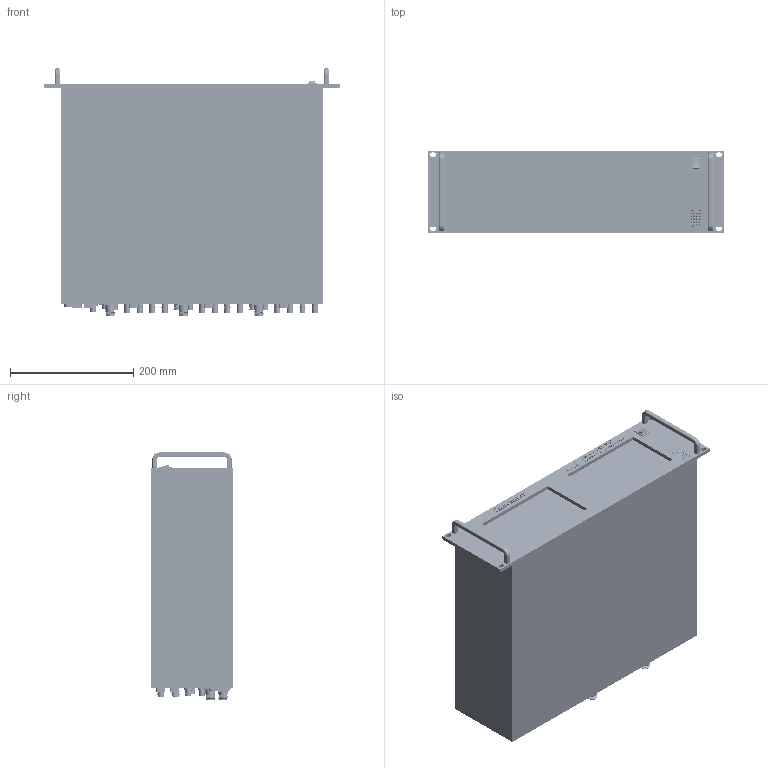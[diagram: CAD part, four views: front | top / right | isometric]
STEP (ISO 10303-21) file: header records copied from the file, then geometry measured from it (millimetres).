
FILE_DESCRIPTION (( 'STEP AP203' ), '1' );
FILE_NAME ('3U Receiver.STEP', '2026-03-03T21:22:40', ( '' ), ( '' ), 'SwSTEP 2.0', 'SolidWorks 2023', '' );
FILE_SCHEMA (( 'CONFIG_CONTROL_DESIGN' ));
Products named in the file (1): 3U Receiver
Bounding box: 481.33 x 132.59 x 401.31 mm (x, y, z)
Surface area: 760165 mm2 (no closed solid volume)
Topology: 0 solids, 150 shells, 14871 faces, 39673 edges, 25788 vertices
Faces by surface type: plane 8295, cylinder 4354, bspline 1209, cone 982, torus 31
Entity records: 505575 total; most frequent: CARTESIAN_POINT 140528, ORIENTED_EDGE 77970, DIRECTION 73109, EDGE_CURVE 39009, VERTEX_POINT 25476, VECTOR 24547, LINE 24547, AXIS2_PLACEMENT_3D 24281
